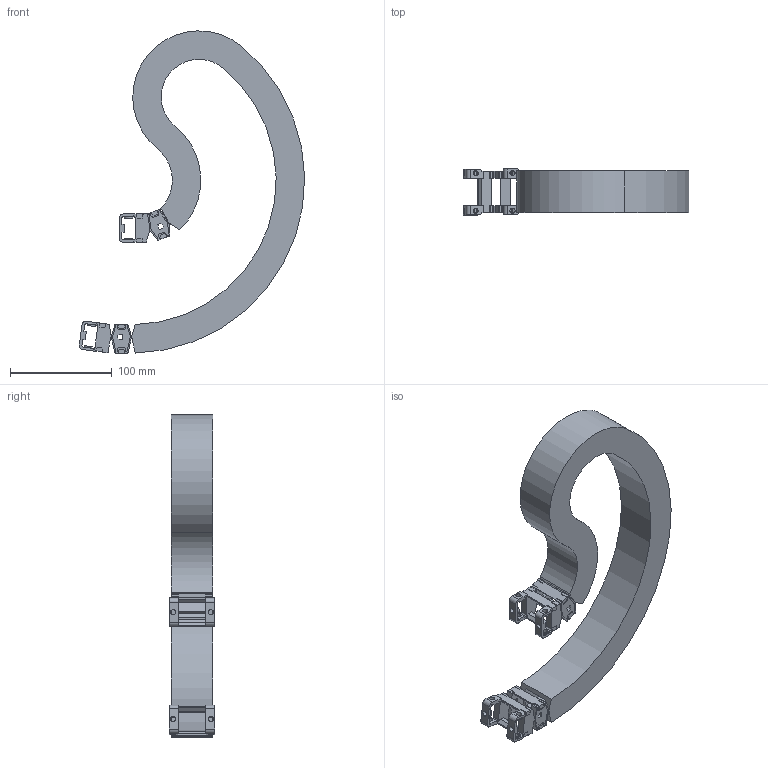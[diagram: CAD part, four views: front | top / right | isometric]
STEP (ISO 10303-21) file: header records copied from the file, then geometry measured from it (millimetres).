
FILE_DESCRIPTION( ( 'STEP AP214' ), '1' );
FILE_NAME( 'e:/temp/worker_36/temp/exporttempdir_6020_314_QCUqB/format_1/RV020CRA41474030130150-0027893.2245.stp', '2021-07-23T16:16:10', ( 'License CC BY-ND 4.0' ), ( 'CADENAS' ), ' ', 'PARTsolutions', ' ' );
FILE_SCHEMA( ( 'AUTOMOTIVE_DESIGN { 1 0 10303 214 1 1 1 1 }' ) );
Length unit declared in the file: millimetre
Products named in the file (4): RV020CRA41474030130150-0027893.2245; _RV020CRA41474030130150-0027563.52-Chain; _RV020CR-20-27; _RV 020CR_FB-41
Assembly tree (5 placements, depth 2):
  RV020CRA41474030130150-0027893.2245
    _RV020CRA41474030130150-0027563.52-Chain
    _RV020CR-20-27  x2
    _RV 020CR_FB-41  x2
Bounding box: 221.3 x 45 x 316.56 mm (x, y, z)
Volume: 419515.2 mm3; surface area: 170814.9 mm2
Topology: 5 solids, 5 shells, 600 faces, 1724 edges, 1124 vertices
Faces by surface type: plane 480, cylinder 120
Full cylindrical faces by diameter (mm): 5 x12
Entity records: 12586 total; most frequent: CARTESIAN_POINT 1776, ORIENTED_EDGE 1764, DIRECTION 1656, EDGE_CURVE 882, LINE 740, VECTOR 740, VERTEX_POINT 578, AXIS2_PLACEMENT_3D 458
